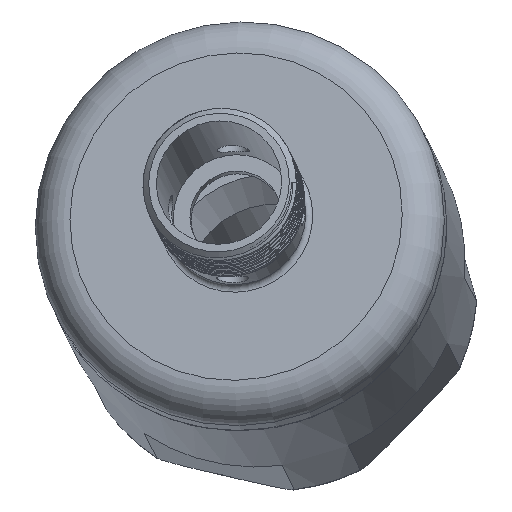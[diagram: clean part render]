
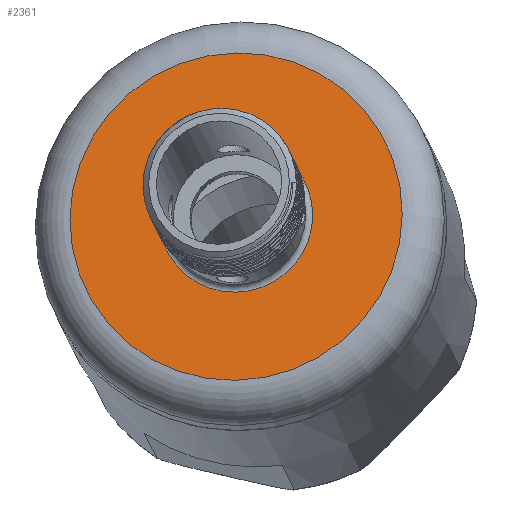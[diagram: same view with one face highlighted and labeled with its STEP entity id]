
A CAD part, top view. The second image highlights one B-rep face of the part: STEP entity #2361.
In plain terms, the highlighted planar face has unit normal (-0.098, 0.195, 0.976) as drawn and (0, 0, -1) by its records, which use the part's own axes.
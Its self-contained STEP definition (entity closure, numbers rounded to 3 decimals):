
#10 = DIRECTION ( 'NONE',  ( 1., 0., 0. ) ) ;
#461 = AXIS2_PLACEMENT_3D ( 'NONE', #1452, #4504, #5303 ) ;
#532 = CIRCLE ( 'NONE', #707, 13. ) ;
#707 = AXIS2_PLACEMENT_3D ( 'NONE', #2641, #954, #10 ) ;
#869 = CARTESIAN_POINT ( 'NONE',  ( 0., 0., 0. ) ) ;
#954 = DIRECTION ( 'NONE',  ( 0., 0., -1. ) ) ;
#1014 = DIRECTION ( 'NONE',  ( 1., 0., 0. ) ) ;
#1452 = CARTESIAN_POINT ( 'NONE',  ( 0., 0., 0. ) ) ;
#1623 = AXIS2_PLACEMENT_3D ( 'NONE', #869, #2328, #1014 ) ;
#1843 = EDGE_LOOP ( 'NONE', ( #2785 ) ) ;
#2286 = PLANE ( 'NONE',  #461 ) ;
#2328 = DIRECTION ( 'NONE',  ( 0., 0., 1. ) ) ;
#2361 = ADVANCED_FACE ( 'NONE', ( #5386, #4898 ), #2286, .F. ) ;
#2475 = CARTESIAN_POINT ( 'NONE',  ( 6., 0., 0. ) ) ;
#2641 = CARTESIAN_POINT ( 'NONE',  ( 0., 0., 0. ) ) ;
#2785 = ORIENTED_EDGE ( 'NONE', *, *, #4386, .T. ) ;
#3266 = EDGE_LOOP ( 'NONE', ( #3991 ) ) ;
#3991 = ORIENTED_EDGE ( 'NONE', *, *, #4609, .T. ) ;
#4386 = EDGE_CURVE ( 'NONE', #5086, #5086, #532, .T. ) ;
#4504 = DIRECTION ( 'NONE',  ( 0., 0., 1. ) ) ;
#4609 = EDGE_CURVE ( 'NONE', #4776, #4776, #4751, .T. ) ;
#4661 = CARTESIAN_POINT ( 'NONE',  ( 13., 0., 0. ) ) ;
#4751 = CIRCLE ( 'NONE', #1623, 6. ) ;
#4776 = VERTEX_POINT ( 'NONE', #2475 ) ;
#4898 = FACE_BOUND ( 'NONE', #3266, .T. ) ;
#5086 = VERTEX_POINT ( 'NONE', #4661 ) ;
#5303 = DIRECTION ( 'NONE',  ( 1., 0., 0. ) ) ;
#5386 = FACE_OUTER_BOUND ( 'NONE', #1843, .T. ) ;
